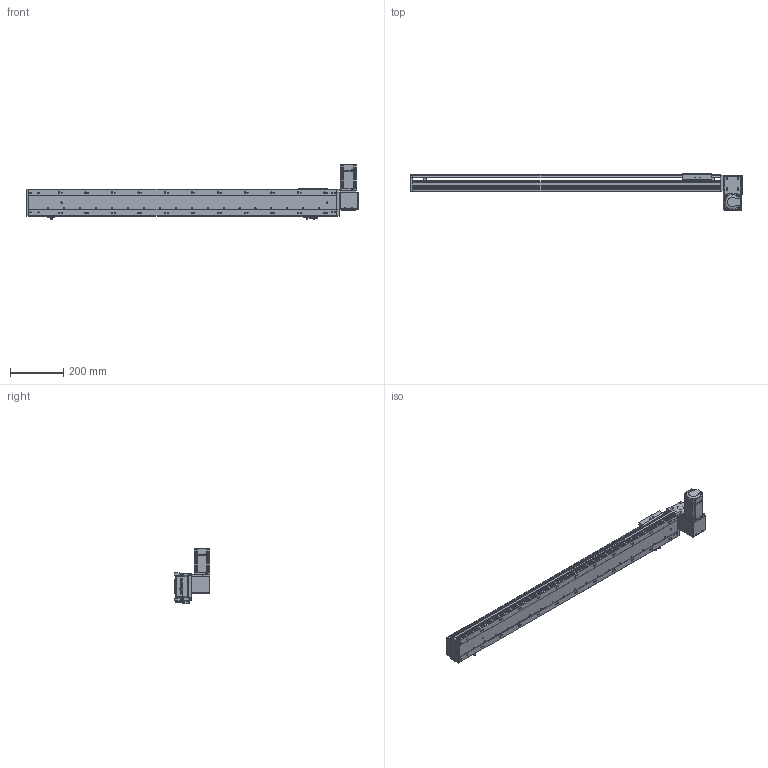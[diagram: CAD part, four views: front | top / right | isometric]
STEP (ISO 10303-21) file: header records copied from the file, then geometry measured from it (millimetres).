
FILE_DESCRIPTION (( 'STEP AP203' ), '1' );
FILE_NAME ('RY100-T-300-DR.SLDASM_950.step', '2024-04-25T03:22:51', ( '盈信电脑' ), ( '东莞市道滘镇水果街19号' ), 'SwSTEP 2.0', 'SolidWorks 2016', '' );
FILE_SCHEMA (( 'CONFIG_CONTROL_DESIGN' ));
Length unit declared in the file: millimetre
Products named in the file (16): 侂狟200W萇儂; RY100-T粣創揤踡裔; RY100俋离覜茼え; 滅袉蝶18-10; 1; RY100-T翋肮祭謫裔啣2; 覜茼ん672; RY100-T-300-DR.SLDASM_950; RY100-T肮祭謫臏賑輸; RY100-T-300-RK倰第菁釱_950; RY100-T-300-RK倰第奻裔_950; RY80-T肮祭謫狟殏俋欶; RY100綴裔啣; RY100-T肮祭謫翋盓傅釱; RY100-T翋肮祭謫裔啣; RY100-T左右折电机安装板
Assembly tree (19 placements, depth 3):
  RY100-T-300-DR.SLDASM_950
    RY100-T-300-RK倰第菁釱_950
    RY100-T-300-RK倰第奻裔_950
    RY100-T肮祭謫臏賑輸
    RY100綴裔啣
    覜茼ん672  x3
    RY100俋离覜茼え
    RY100-T肮祭謫翋盓傅釱
    RY100-T左右折电机安装板
    侂狟200W萇儂
      1
    RY100-T粣創揤踡裔
    滅袉蝶18-10  x2
    RY100-T翋肮祭謫裔啣2  x2
    RY100-T翋肮祭謫裔啣
    RY80-T肮祭謫狟殏俋欶
Bounding box: 1250 x 135.5 x 209.7 mm (x, y, z)
Volume: 2557081 mm3; surface area: 1060571.3 mm2
Topology: 18 solids, 18 shells, 2305 faces, 6441 edges, 4187 vertices
Faces by surface type: plane 1229, cylinder 859, cone 139, bspline 78
Entity records: 74620 total; most frequent: CARTESIAN_POINT 18272, ORIENTED_EDGE 11618, DIRECTION 11025, EDGE_CURVE 5809, VERTEX_POINT 3823, VECTOR 3695, LINE 3695, AXIS2_PLACEMENT_3D 3665
